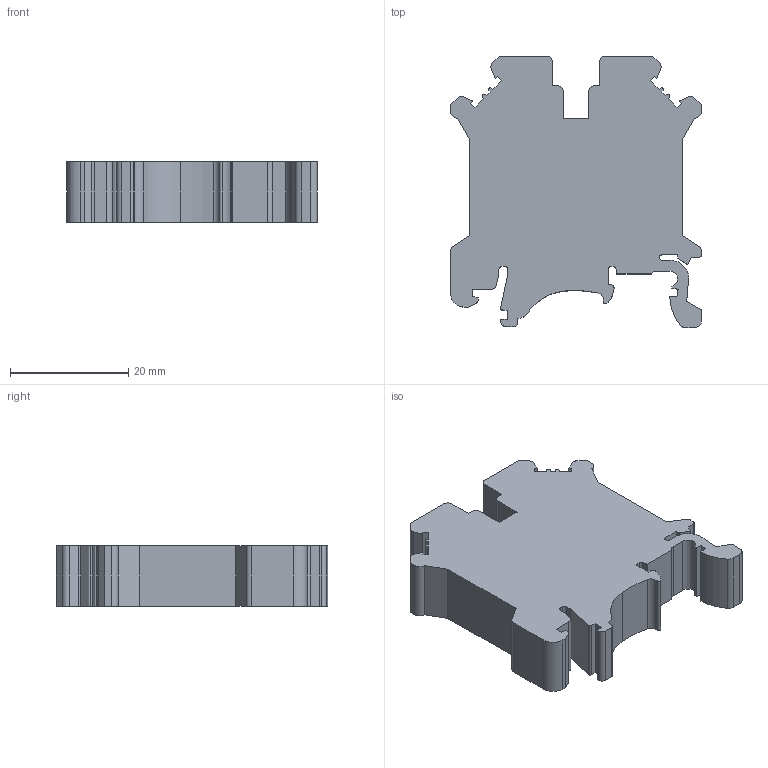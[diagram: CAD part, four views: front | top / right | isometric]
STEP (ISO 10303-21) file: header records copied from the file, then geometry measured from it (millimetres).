
FILE_DESCRIPTION(/* description */ (''),/* implementation_level */ '2;1');
FILE_NAME(/* name */ 'UT1-10.stp',/* time_stamp */ '2022-12-21T10:20:07+08:00',/* author */ (''),/* organization */ (''),/* preprocessor_version */ 'ST-DEVELOPER v16.7',/* originating_system */ 'SIEMENS PLM Software NX 12.0',/* authorisation */ '');
FILE_SCHEMA (('AUTOMOTIVE_DESIGN { 1 0 10303 214 3 1 1 1 }'));
Length unit declared in the file: millimetre
Products named in the file (1): _model1
Bounding box: 42.5 x 46 x 10.2 mm (x, y, z)
Volume: 14222.3 mm3; surface area: 5455.1 mm2
Topology: 1 solids, 1 shells, 134 faces, 396 edges, 264 vertices
Faces by surface type: plane 91, cylinder 43
Entity records: 4490 total; most frequent: CARTESIAN_POINT 795, ORIENTED_EDGE 792, DIRECTION 752, EDGE_CURVE 396, LINE 310, VECTOR 310, VERTEX_POINT 264, AXIS2_PLACEMENT_3D 221
